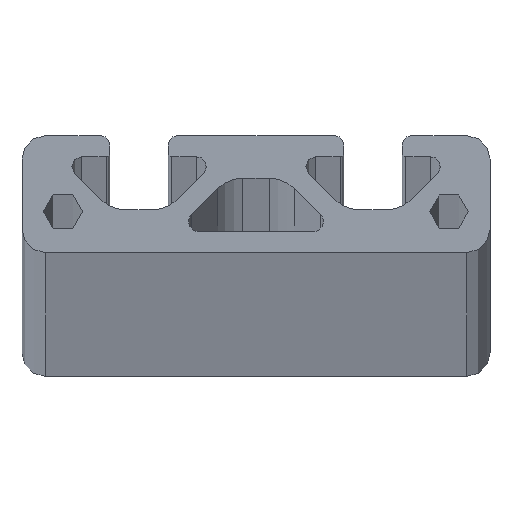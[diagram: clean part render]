
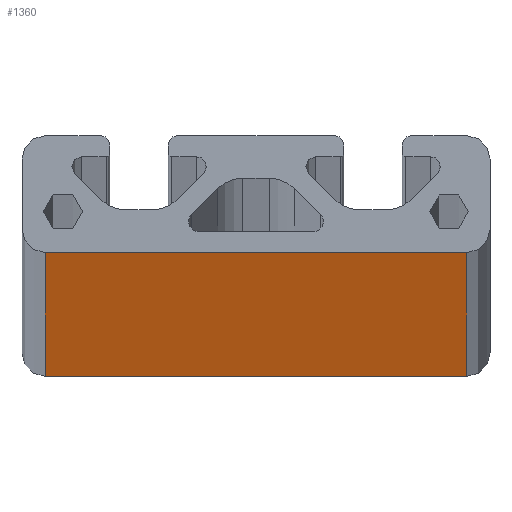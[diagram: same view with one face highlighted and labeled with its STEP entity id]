
A CAD part, top view. The second image highlights one B-rep face of the part: STEP entity #1360.
In plain terms, the highlighted planar face has unit normal (0, -1, 0).
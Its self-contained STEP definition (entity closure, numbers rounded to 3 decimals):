
#207 = VECTOR ( 'NONE', #1847, 1000. ) ;
#232 = CARTESIAN_POINT ( 'NONE',  ( 18., -5., -6060. ) ) ;
#310 = DIRECTION ( 'NONE',  ( 0., -1., 0. ) ) ;
#431 = FACE_OUTER_BOUND ( 'NONE', #2011, .T. ) ;
#463 = CARTESIAN_POINT ( 'NONE',  ( 0., -5., -6060. ) ) ;
#585 = EDGE_CURVE ( 'NONE', #1762, #1771, #1018, .T. ) ;
#596 = CARTESIAN_POINT ( 'NONE',  ( 18., -5., -6060. ) ) ;
#598 = LINE ( 'NONE', #1692, #207 ) ;
#628 = ORIENTED_EDGE ( 'NONE', *, *, #1397, .F. ) ;
#651 = CARTESIAN_POINT ( 'NONE',  ( 18., -5., 0. ) ) ;
#763 = VECTOR ( 'NONE', #1208, 1000. ) ;
#816 = ORIENTED_EDGE ( 'NONE', *, *, #585, .T. ) ;
#866 = DIRECTION ( 'NONE',  ( 0., 0., 1. ) ) ;
#881 = ORIENTED_EDGE ( 'NONE', *, *, #1689, .T. ) ;
#924 = VERTEX_POINT ( 'NONE', #2001 ) ;
#925 = DIRECTION ( 'NONE',  ( 1., 0., 0. ) ) ;
#932 = DIRECTION ( 'NONE',  ( 1., 0., 0. ) ) ;
#1018 = LINE ( 'NONE', #1249, #763 ) ;
#1044 = VERTEX_POINT ( 'NONE', #651 ) ;
#1055 = EDGE_CURVE ( 'NONE', #924, #1044, #1744, .T. ) ;
#1156 = VECTOR ( 'NONE', #866, 1000. ) ;
#1208 = DIRECTION ( 'NONE',  ( 1., 0., 0. ) ) ;
#1249 = CARTESIAN_POINT ( 'NONE',  ( 0., -5., -6060. ) ) ;
#1269 = CARTESIAN_POINT ( 'NONE',  ( 0., -5., 0. ) ) ;
#1356 = ORIENTED_EDGE ( 'NONE', *, *, #1055, .F. ) ;
#1360 = ADVANCED_FACE ( 'NONE', ( #431 ), #2017, .T. ) ;
#1397 = EDGE_CURVE ( 'NONE', #1762, #924, #598, .T. ) ;
#1482 = LINE ( 'NONE', #232, #1156 ) ;
#1549 = VECTOR ( 'NONE', #925, 1000. ) ;
#1662 = CARTESIAN_POINT ( 'NONE',  ( -18., -5., -6060. ) ) ;
#1689 = EDGE_CURVE ( 'NONE', #1771, #1044, #1482, .T. ) ;
#1692 = CARTESIAN_POINT ( 'NONE',  ( -18., -5., -6060. ) ) ;
#1744 = LINE ( 'NONE', #1269, #1549 ) ;
#1762 = VERTEX_POINT ( 'NONE', #1662 ) ;
#1771 = VERTEX_POINT ( 'NONE', #596 ) ;
#1773 = AXIS2_PLACEMENT_3D ( 'NONE', #463, #310, #932 ) ;
#1847 = DIRECTION ( 'NONE',  ( 0., 0., 1. ) ) ;
#2001 = CARTESIAN_POINT ( 'NONE',  ( -18., -5., 0. ) ) ;
#2011 = EDGE_LOOP ( 'NONE', ( #1356, #628, #816, #881 ) ) ;
#2017 = PLANE ( 'NONE',  #1773 ) ;
